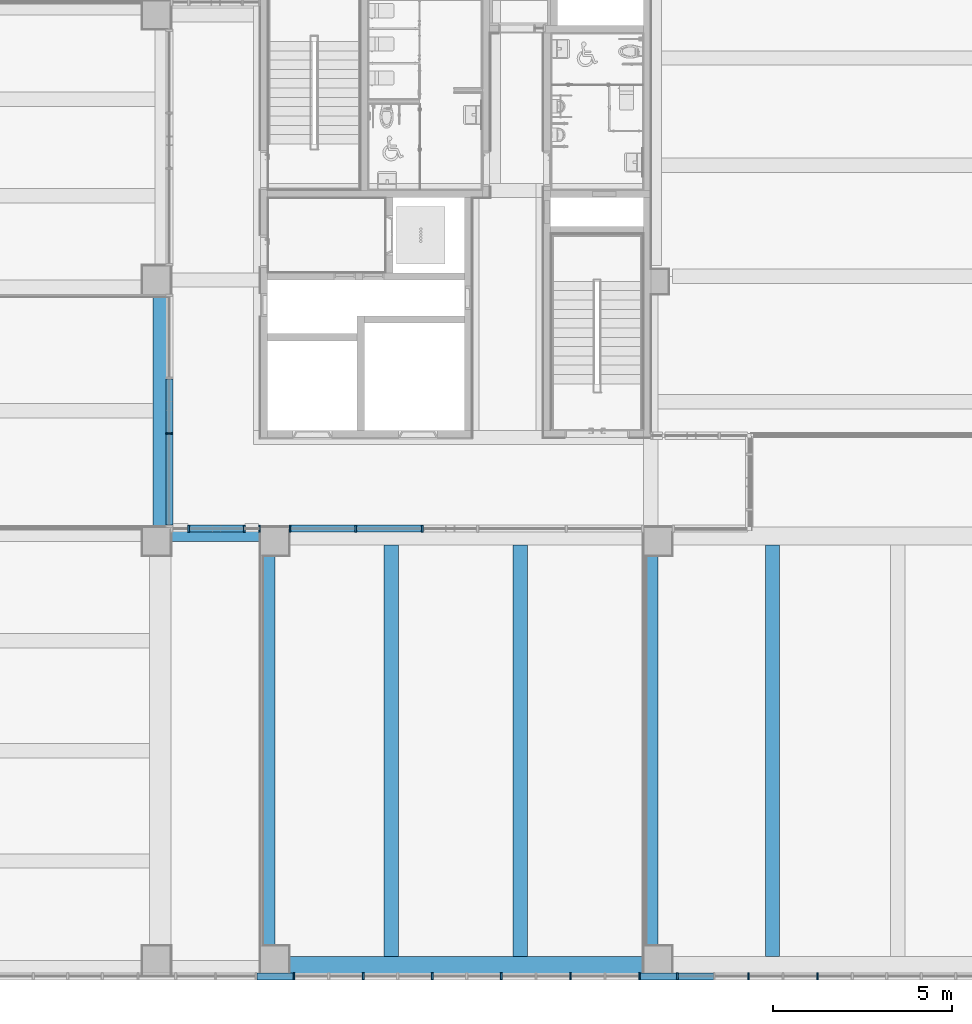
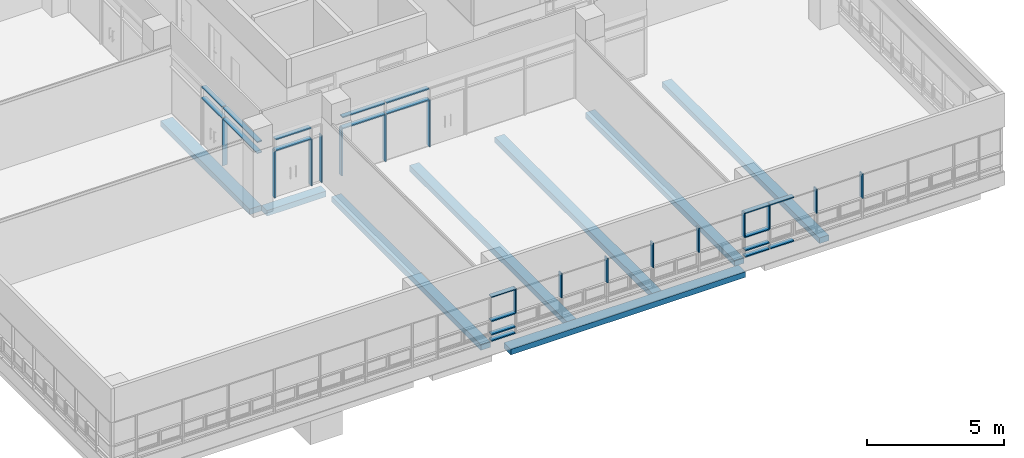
# One storey, part 3 of 82: 36 members, 8 beams, 4 elements without a shape of their own.
"""IFC2X3 building model written with IfcOpenShell, lengths in millimetres."""

from ifc_helpers import new_model, entity, si_unit, converted_unit, derived_unit, direction, frame, frame_2d, origin, origin_2d_with_axis, place, context, subcontext, project, spatial, rectangle, extrude, source, transform, mapped, material, type_object, type_shapes, element, aggregate, save


model = new_model("IFC2X3")

# Units and contexts
model_context = context("Model", 3, precision=0.01, world=origin(), true_north=direction((6.123031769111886e-17, 1.0)))
body_context = subcontext(model_context, "Body", "Model", "MODEL_VIEW")
ifc_project = project(units=[si_unit("LENGTHUNIT", "METRE", prefix="MILLI"), si_unit("AREAUNIT", "SQUARE_METRE"), si_unit("VOLUMEUNIT", "CUBIC_METRE"), converted_unit("PLANEANGLEUNIT", "DEGREE", entity("IfcRatioMeasure", 0.017453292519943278), si_unit("PLANEANGLEUNIT", "RADIAN"), dimensions=[0, 0, 0, 0, 0, 0, 0]), si_unit("MASSUNIT", "GRAM", prefix="KILO"), derived_unit("MASSDENSITYUNIT", [(si_unit("MASSUNIT", "GRAM", prefix="KILO"), 1), (si_unit("LENGTHUNIT", "METRE"), -3)]), derived_unit("MOMENTOFINERTIAUNIT", [(si_unit("LENGTHUNIT", "METRE"), 4)]), si_unit("TIMEUNIT", "SECOND"), si_unit("FREQUENCYUNIT", "HERTZ"), si_unit("THERMODYNAMICTEMPERATUREUNIT", "DEGREE_CELSIUS"), derived_unit("THERMALTRANSMITTANCEUNIT", [(si_unit("MASSUNIT", "GRAM", prefix="KILO"), 1), (si_unit("THERMODYNAMICTEMPERATUREUNIT", "KELVIN"), -1), (si_unit("TIMEUNIT", "SECOND"), -3)]), derived_unit("VOLUMETRICFLOWRATEUNIT", [(si_unit("LENGTHUNIT", "METRE"), 3), (si_unit("TIMEUNIT", "SECOND"), -1)]), derived_unit("MASSFLOWRATEUNIT", [(si_unit("MASSUNIT", "GRAM", prefix="KILO"), 1), (si_unit("TIMEUNIT", "SECOND"), -1)]), derived_unit("ROTATIONALFREQUENCYUNIT", [(si_unit("TIMEUNIT", "SECOND"), -1)]), si_unit("ELECTRICCURRENTUNIT", "AMPERE"), si_unit("ELECTRICVOLTAGEUNIT", "VOLT"), si_unit("POWERUNIT", "WATT"), si_unit("FORCEUNIT", "NEWTON", prefix="KILO"), si_unit("ILLUMINANCEUNIT", "LUX"), si_unit("LUMINOUSFLUXUNIT", "LUMEN"), si_unit("LUMINOUSINTENSITYUNIT", "CANDELA"), derived_unit("USERDEFINED", [(si_unit("MASSUNIT", "GRAM", prefix="KILO"), -1), (si_unit("LENGTHUNIT", "METRE"), -2), (si_unit("TIMEUNIT", "SECOND"), 3), (si_unit("LUMINOUSFLUXUNIT", "LUMEN"), 1)]), derived_unit("SOUNDPOWERUNIT", [(si_unit("MASSUNIT", "GRAM", prefix="KILO"), 1), (si_unit("LENGTHUNIT", "METRE"), 2), (si_unit("TIMEUNIT", "SECOND"), -3)]), derived_unit("SOUNDPRESSUREUNIT", [(si_unit("MASSUNIT", "GRAM", prefix="KILO"), 1), (si_unit("LENGTHUNIT", "METRE"), -1), (si_unit("TIMEUNIT", "SECOND"), -2)]), derived_unit("LINEARVELOCITYUNIT", [(si_unit("LENGTHUNIT", "METRE"), 1), (si_unit("TIMEUNIT", "SECOND"), -1)]), si_unit("PRESSUREUNIT", "PASCAL"), derived_unit("USERDEFINED", [(si_unit("LENGTHUNIT", "METRE"), -2), (si_unit("MASSUNIT", "GRAM", prefix="KILO"), 1), (si_unit("TIMEUNIT", "SECOND"), -2)]), derived_unit("LINEARFORCEUNIT", [(si_unit("MASSUNIT", "GRAM", prefix="KILO"), 1), (si_unit("LENGTHUNIT", "METRE"), 1), (si_unit("TIMEUNIT", "SECOND"), -2), (si_unit("LENGTHUNIT", "METRE"), -1)]), derived_unit("PLANARFORCEUNIT", [(si_unit("MASSUNIT", "GRAM", prefix="KILO"), 1), (si_unit("LENGTHUNIT", "METRE"), 1), (si_unit("TIMEUNIT", "SECOND"), -2), (si_unit("LENGTHUNIT", "METRE"), -2)])], contexts=[model_context])

# Site, building, storey
site_placement = place(None, frame((-14167.972527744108, -657.2125860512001, 0.0)))
site = spatial("IfcSite", under=ifc_project, at=site_placement, Name="Default", CompositionType="ELEMENT")
building_placement = place(site_placement, origin())
building = spatial("IfcBuilding", under=site, at=building_placement, Name="Sample Building", CompositionType="ELEMENT")
storey_placement = place(building_placement, frame((0.0, 0.0, 17500.0)))
storey = spatial("IfcBuildingStorey", under=building, at=storey_placement, Name="지상 5층", CompositionType="ELEMENT", Elevation=17500.00000000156)

# Curtain wall, member
curtain_wall_type = type_object("IfcCurtainWallType", Name="커튼월:CW112-스테인리스 스틸 커튼월", PredefinedType="NOTDEFINED")
curtain_wall_1_placement = place(storey_placement, frame((0.0, 0.0, -17500.0)))
curtain_wall_1 = element("IfcCurtainWall", 1, at=curtain_wall_1_placement, inside=storey, type_object=curtain_wall_type, Name="커튼월:CW112-스테인리스 스틸 커튼월", ObjectType="커튼월:CW112-스테인리스 스틸 커튼월")
ifc_material_1 = material(Name="<Unnamed>")
member_type_1 = type_object("IfcMemberType", Name="직사각형 멀리언:CW200-직사각형 멀리언 50x200mm", PredefinedType="MULLION", material=ifc_material_1)
shared_shape_1 = source(origin(), body_context, "Body", "SweptSolid", [
    extrude(rectangle(XDim=200.0, YDim=50.0, at=origin_2d_with_axis()), frame((-25.0, 0.0, -1500.0), z_axis=(0.0, 0.0, 1.0), x_axis=(0.0, -1.0, 0.0)), (0.0, 0.0, 1.0), 1500.0000000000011),
])
type_shapes(member_type_1, [shared_shape_1])
member_1_placement = place(curtain_wall_1_placement, frame((27522.92042157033, 15692.177624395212, 20200.0), z_axis=(0.0, -1.0, 0.0), x_axis=(0.0, 0.0, 1.0)))
member_1 = element("IfcMember", 2, at=member_1_placement, type_object=member_type_1, material=ifc_material_1, Name="직사각형 멀리언:CW200-직사각형 멀리언 50x200mm", ObjectType="직사각형 멀리언:CW200-직사각형 멀리언 50x200mm", context=body_context, shape_type="MappedRepresentation", body=[
    mapped(shared_shape_1, transform((0.0, 0.0, 0.0), scale=1.0)),
])

curtain_wall_2_placement = place(storey_placement, frame((0.0, 0.0, -17500.0)))
curtain_wall_2 = element("IfcCurtainWall", 3, at=curtain_wall_2_placement, inside=storey, type_object=curtain_wall_type, Name="커튼월:CW112-스테인리스 스틸 커튼월", ObjectType="커튼월:CW112-스테인리스 스틸 커튼월")
member_type_2 = type_object("IfcMemberType", Name="직사각형 멀리언:CW200-직사각형 멀리언 50x200mm", PredefinedType="MULLION", material=ifc_material_1)
shared_shape_2 = source(origin(), body_context, "Body", "SweptSolid", [
    extrude(rectangle(XDim=200.0, YDim=50.0, at=origin_2d_with_axis()), frame((-25.0, 0.0, -2100.0), z_axis=(0.0, 0.0, 1.0), x_axis=(0.0, -1.0, 0.0)), (0.0, 0.0, 1.0), 2099.9999999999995),
])
type_shapes(member_type_2, [shared_shape_2])
member_2_placement = place(curtain_wall_2_placement, frame((30867.955114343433, 13012.212307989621, 19680.0), z_axis=(0.0, 0.0, 1.0), x_axis=(-1.0, 0.0, 0.0)))
member_2 = element("IfcMember", 4, at=member_2_placement, type_object=member_type_2, material=ifc_material_1, Name="직사각형 멀리언:CW200-직사각형 멀리언 50x200mm", ObjectType="직사각형 멀리언:CW200-직사각형 멀리언 50x200mm", context=body_context, shape_type="MappedRepresentation", body=[
    mapped(shared_shape_2, transform((0.0, 0.0, 0.0), scale=1.0)),
])

# Member
member_type_3 = type_object("IfcMemberType", Name="직사각형 멀리언:CW200-직사각형 멀리언 50x200mm", PredefinedType="MULLION", material=ifc_material_1)
shared_shape_3 = source(origin(), body_context, "Body", "SweptSolid", [
    extrude(rectangle(XDim=200.0, YDim=50.0, at=origin_2d_with_axis()), frame((0.0, 0.0, -1500.0), z_axis=(0.0, 0.0, 1.0), x_axis=(0.0, -1.0, 0.0)), (0.0, 0.0, 1.0), 1500.0000000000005),
])
type_shapes(member_type_3, [shared_shape_3])
member_3_placement = place(curtain_wall_1_placement, frame((27522.92042157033, 15692.177624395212, 19680.0), z_axis=(0.0, -1.0, 0.0), x_axis=(0.0, 0.0, 1.0)))
member_3 = element("IfcMember", 5, at=member_3_placement, type_object=member_type_3, material=ifc_material_1, Name="직사각형 멀리언:CW200-직사각형 멀리언 50x200mm", ObjectType="직사각형 멀리언:CW200-직사각형 멀리언 50x200mm", context=body_context, shape_type="MappedRepresentation", body=[
    mapped(shared_shape_3, transform((0.0, 0.0, 0.0), scale=1.0)),
])

member_type_4 = type_object("IfcMemberType", Name="직사각형 멀리언:CW200-직사각형 멀리언 50x200mm", PredefinedType="MULLION", material=ifc_material_1)
shared_shape_4 = source(origin(), body_context, "Body", "SweptSolid", [
    extrude(rectangle(XDim=200.0, YDim=50.0, at=origin_2d_with_axis()), frame((0.0, 0.0, -2100.0), z_axis=(0.0, 0.0, 1.0), x_axis=(0.0, -1.0, 0.0)), (0.0, 0.0, 1.0), 2100.0),
])
type_shapes(member_type_4, [shared_shape_4])
member_4_placement = place(curtain_wall_1_placement, frame((27522.92042157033, 15667.17762439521, 17580.0), z_axis=(0.0, 0.0, -1.0), x_axis=(0.0, -1.0, 0.0)))
member_4 = element("IfcMember", 6, at=member_4_placement, type_object=member_type_4, material=ifc_material_1, Name="직사각형 멀리언:CW200-직사각형 멀리언 50x200mm", ObjectType="직사각형 멀리언:CW200-직사각형 멀리언 50x200mm", context=body_context, shape_type="MappedRepresentation", body=[
    mapped(shared_shape_4, transform((0.0, 0.0, 0.0), scale=1.0)),
])

member_5_placement = place(curtain_wall_2_placement, frame((32727.97249113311, 13012.212307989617, 17580.0), z_axis=(0.0, 0.0, -1.0), x_axis=(1.0, 0.0, 0.0)))
member_5 = element("IfcMember", 7, at=member_5_placement, type_object=member_type_4, material=ifc_material_1, Name="직사각형 멀리언:CW200-직사각형 멀리언 50x200mm", ObjectType="직사각형 멀리언:CW200-직사각형 멀리언 50x200mm", context=body_context, shape_type="MappedRepresentation", body=[
    mapped(shared_shape_4, transform((0.0, 0.0, 0.0), scale=1.0)),
])

member_6_placement = place(curtain_wall_2_placement, frame((34587.972491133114, 13012.21230798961, 17580.0), z_axis=(0.0, 0.0, -1.0), x_axis=(1.0, 0.0, 0.0)))
member_6 = element("IfcMember", 8, at=member_6_placement, type_object=member_type_4, material=ifc_material_1, Name="직사각형 멀리언:CW200-직사각형 멀리언 50x200mm", ObjectType="직사각형 멀리언:CW200-직사각형 멀리언 50x200mm", context=body_context, shape_type="MappedRepresentation", body=[
    mapped(shared_shape_4, transform((0.0, 0.0, 0.0), scale=1.0)),
])

member_type_5 = type_object("IfcMemberType", Name="직사각형 멀리언:CW200-직사각형 멀리언 50x200mm", PredefinedType="MULLION", material=ifc_material_1)
shared_shape_5 = source(origin(), body_context, "Body", "SweptSolid", [
    extrude(rectangle(XDim=200.0, YDim=50.0, at=origin_2d_with_axis()), frame((-25.0, 0.0, -2534.965316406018), z_axis=(0.0, 0.0, 1.0), x_axis=(0.0, -1.0, 0.0)), (0.0, 0.0, 1.0), 2534.965316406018),
])
type_shapes(member_type_5, [shared_shape_5])
member_7_placement = place(curtain_wall_1_placement, frame((27522.920421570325, 13107.21230798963, 20200.0), z_axis=(0.0, -1.0, 0.0), x_axis=(0.0, 0.0, 1.0)))
member_7 = element("IfcMember", 9, at=member_7_placement, type_object=member_type_5, material=ifc_material_1, Name="직사각형 멀리언:CW200-직사각형 멀리언 50x200mm", ObjectType="직사각형 멀리언:CW200-직사각형 멀리언 50x200mm", context=body_context, shape_type="MappedRepresentation", body=[
    mapped(shared_shape_5, transform((0.0, 0.0, 0.0), scale=1.0)),
])

member_type_6 = type_object("IfcMemberType", Name="직사각형 멀리언:CW200-직사각형 멀리언 50x200mm", PredefinedType="MULLION", material=ifc_material_1)
shared_shape_6 = source(origin(), body_context, "Body", "SweptSolid", [
    extrude(rectangle(XDim=200.0, YDim=50.0, at=origin_2d_with_axis()), frame((0.0, 0.0, -2534.9653164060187), z_axis=(0.0, 0.0, 1.0), x_axis=(0.0, -1.0, 0.0)), (0.0, 0.0, 1.0), 2534.9653164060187),
])
type_shapes(member_type_6, [shared_shape_6])
member_8_placement = place(curtain_wall_1_placement, frame((27522.920421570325, 13107.21230798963, 19680.0), z_axis=(0.0, -1.0, 0.0), x_axis=(0.0, 0.0, 1.0)))
member_8 = element("IfcMember", 10, at=member_8_placement, type_object=member_type_6, material=ifc_material_1, Name="직사각형 멀리언:CW200-직사각형 멀리언 50x200mm", ObjectType="직사각형 멀리언:CW200-직사각형 멀리언 50x200mm", context=body_context, shape_type="MappedRepresentation", body=[
    mapped(shared_shape_6, transform((0.0, 0.0, 0.0), scale=1.0)),
])

aggregate(curtain_wall_1, [member_7, member_1, member_4, member_3, member_8])

# Curtain wall, members
curtain_wall_3_placement = place(storey_placement, frame((0.0, 0.0, -17500.0)))
curtain_wall_3 = element("IfcCurtainWall", 11, at=curtain_wall_3_placement, inside=storey, type_object=curtain_wall_type, Name="커튼월:CW112-스테인리스 스틸 커튼월", ObjectType="커튼월:CW112-스테인리스 스틸 커튼월")
member_type_7 = type_object("IfcMemberType", Name="직사각형 멀리언:CW200-직사각형 멀리언 50x200mm", PredefinedType="MULLION", material=ifc_material_1)
shared_shape_7 = source(origin(), body_context, "Body", "SweptSolid", [
    extrude(rectangle(XDim=200.0, YDim=50.0, at=origin_2d_with_axis()), frame((0.0, 0.0, -1500.0), z_axis=(0.0, 0.0, 1.0), x_axis=(0.0, -1.0, 0.0)), (0.0, 0.0, 1.0), 1499.999999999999),
])
type_shapes(member_type_7, [shared_shape_7])
member_9_placement = place(curtain_wall_3_placement, frame((28091.1258144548, 13012.21230798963, 19680.0), z_axis=(-1.0, 0.0, 0.0), x_axis=(0.0, 0.0, 1.0)))
member_9 = element("IfcMember", 12, at=member_9_placement, type_object=member_type_7, material=ifc_material_1, Name="직사각형 멀리언:CW200-직사각형 멀리언 50x200mm", ObjectType="직사각형 멀리언:CW200-직사각형 멀리언 50x200mm", context=body_context, shape_type="MappedRepresentation", body=[
    mapped(shared_shape_7, transform((0.0, 0.0, 0.0), scale=1.0)),
])
member_type_8 = type_object("IfcMemberType", Name="직사각형 멀리언:CW200-직사각형 멀리언 50x200mm", PredefinedType="MULLION", material=ifc_material_1)
shared_shape_8 = source(origin(), body_context, "Body", "SweptSolid", [
    extrude(rectangle(XDim=200.0, YDim=50.0, at=origin_2d_with_axis()), frame((-25.0, 0.0, -1500.0), z_axis=(0.0, 0.0, 1.0), x_axis=(0.0, -1.0, 0.0)), (0.0, 0.0, 1.0), 1499.999999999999),
])
type_shapes(member_type_8, [shared_shape_8])
member_10_placement = place(curtain_wall_3_placement, frame((28091.1258144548, 13012.21230798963, 20200.0), z_axis=(-1.0, 0.0, 0.0), x_axis=(0.0, 0.0, 1.0)))
member_10 = element("IfcMember", 13, at=member_10_placement, type_object=member_type_8, material=ifc_material_1, Name="직사각형 멀리언:CW200-직사각형 멀리언 50x200mm", ObjectType="직사각형 멀리언:CW200-직사각형 멀리언 50x200mm", context=body_context, shape_type="MappedRepresentation", body=[
    mapped(shared_shape_8, transform((0.0, 0.0, 0.0), scale=1.0)),
])

# Member
member_type_9 = type_object("IfcMemberType", Name="직사각형 멀리언:CW200-직사각형 멀리언 50x200mm", PredefinedType="MULLION", material=ifc_material_1)
shared_shape_9 = source(origin(), body_context, "Body", "SweptSolid", [
    extrude(rectangle(XDim=200.0, YDim=50.0, at=origin_2d_with_axis()), frame((0.0, 0.0, -1785.0), z_axis=(0.0, 0.0, 1.0), x_axis=(0.0, -1.0, 0.0)), (0.0, 0.0, 1.0), 1785.0000000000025),
])
type_shapes(member_type_9, [shared_shape_9])
member_11_placement = place(curtain_wall_2_placement, frame((32702.972491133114, 13012.212307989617, 19680.0), z_axis=(1.0, 0.0, 0.0), x_axis=(0.0, 0.0, 1.0)))
member_11 = element("IfcMember", 14, at=member_11_placement, type_object=member_type_9, material=ifc_material_1, Name="직사각형 멀리언:CW200-직사각형 멀리언 50x200mm", ObjectType="직사각형 멀리언:CW200-직사각형 멀리언 50x200mm", context=body_context, shape_type="MappedRepresentation", body=[
    mapped(shared_shape_9, transform((0.0, 0.0, 0.0), scale=1.0)),
])

member_type_10 = type_object("IfcMemberType", Name="직사각형 멀리언:CW200-직사각형 멀리언 50x200mm", PredefinedType="MULLION", material=ifc_material_1)
shared_shape_10 = source(origin(), body_context, "Body", "SweptSolid", [
    extrude(rectangle(XDim=200.0, YDim=50.0, at=origin_2d_with_axis()), frame((-25.0, 0.0, -1785.0), z_axis=(0.0, 0.0, 1.0), x_axis=(0.0, -1.0, 0.0)), (0.0, 0.0, 1.0), 1785.0000000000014),
])
type_shapes(member_type_10, [shared_shape_10])
member_12_placement = place(curtain_wall_2_placement, frame((32702.972491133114, 13012.212307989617, 20200.0), z_axis=(1.0, 0.0, 0.0), x_axis=(0.0, 0.0, 1.0)))
member_12 = element("IfcMember", 15, at=member_12_placement, type_object=member_type_10, material=ifc_material_1, Name="직사각형 멀리언:CW200-직사각형 멀리언 50x200mm", ObjectType="직사각형 멀리언:CW200-직사각형 멀리언 50x200mm", context=body_context, shape_type="MappedRepresentation", body=[
    mapped(shared_shape_10, transform((0.0, 0.0, 0.0), scale=1.0)),
])

member_type_11 = type_object("IfcMemberType", Name="직사각형 멀리언:CW200-직사각형 멀리언 50x200mm", PredefinedType="MULLION", material=ifc_material_1)
shared_shape_11 = source(origin(), body_context, "Body", "SweptSolid", [
    extrude(rectangle(XDim=200.0, YDim=50.0, at=origin_2d_with_axis()), frame((0.0, 0.0, -1810.0), z_axis=(0.0, 0.0, 1.0), x_axis=(0.0, -1.0, 0.0)), (0.0, 0.0, 1.0), 1809.999999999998),
])
type_shapes(member_type_11, [shared_shape_11])
member_13_placement = place(curtain_wall_2_placement, frame((34562.972491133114, 13012.21230798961, 19680.0), z_axis=(1.0, 0.0, 0.0), x_axis=(0.0, 0.0, 1.0)))
member_13 = element("IfcMember", 16, at=member_13_placement, type_object=member_type_11, material=ifc_material_1, Name="직사각형 멀리언:CW200-직사각형 멀리언 50x200mm", ObjectType="직사각형 멀리언:CW200-직사각형 멀리언 50x200mm", context=body_context, shape_type="MappedRepresentation", body=[
    mapped(shared_shape_11, transform((0.0, 0.0, 0.0), scale=1.0)),
])

member_type_12 = type_object("IfcMemberType", Name="직사각형 멀리언:CW200-직사각형 멀리언 50x200mm", PredefinedType="MULLION", material=ifc_material_1)
shared_shape_12 = source(origin(), body_context, "Body", "SweptSolid", [
    extrude(rectangle(XDim=200.0, YDim=50.0, at=origin_2d_with_axis()), frame((-25.0, 0.0, -1810.0), z_axis=(0.0, 0.0, 1.0), x_axis=(0.0, -1.0, 0.0)), (0.0, 0.0, 1.0), 1809.999999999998),
])
type_shapes(member_type_12, [shared_shape_12])
member_14_placement = place(curtain_wall_2_placement, frame((34562.972491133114, 13012.21230798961, 20200.0), z_axis=(1.0, 0.0, 0.0), x_axis=(0.0, 0.0, 1.0)))
member_14 = element("IfcMember", 17, at=member_14_placement, type_object=member_type_12, material=ifc_material_1, Name="직사각형 멀리언:CW200-직사각형 멀리언 50x200mm", ObjectType="직사각형 멀리언:CW200-직사각형 멀리언 50x200mm", context=body_context, shape_type="MappedRepresentation", body=[
    mapped(shared_shape_12, transform((0.0, 0.0, 0.0), scale=1.0)),
])

aggregate(curtain_wall_2, [member_2, member_11, member_12, member_13, member_5, member_14, member_6])

member_type_13 = type_object("IfcMemberType", Name="직사각형 멀리언:CW200-직사각형 멀리언 50x200mm", PredefinedType="MULLION", material=ifc_material_1)
shared_shape_13 = source(origin(), body_context, "Body", "SweptSolid", [
    extrude(rectangle(XDim=200.0, YDim=50.0, at=origin_2d_with_axis()), frame((-25.0, 0.0, -2100.0), z_axis=(0.0, 0.0, 1.0), x_axis=(0.0, -1.0, 0.0)), (0.0, 0.0, 1.0), 2099.999999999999),
])
type_shapes(member_type_13, [shared_shape_13])
member_15_placement = place(curtain_wall_3_placement, frame((30067.972463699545, 13012.212307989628, 19680.0)))
member_15 = element("IfcMember", 18, at=member_15_placement, type_object=member_type_13, material=ifc_material_1, Name="직사각형 멀리언:CW200-직사각형 멀리언 50x200mm", ObjectType="직사각형 멀리언:CW200-직사각형 멀리언 50x200mm", context=body_context, shape_type="MappedRepresentation", body=[
    mapped(shared_shape_13, transform((0.0, 0.0, 0.0), scale=1.0)),
])

member_type_14 = type_object("IfcMemberType", Name="직사각형 멀리언:CW200-직사각형 멀리언 50x200mm", PredefinedType="MULLION", material=ifc_material_1)
shared_shape_14 = source(origin(), body_context, "Body", "SweptSolid", [
    extrude(rectangle(XDim=200.0, YDim=50.0, at=origin_2d_with_axis()), frame((0.0, 0.0, -2100.0), z_axis=(0.0, 0.0, 1.0), x_axis=(0.0, -1.0, 0.0)), (0.0, 0.0, 1.0), 2100.0),
])
type_shapes(member_type_14, [shared_shape_14])
member_16_placement = place(curtain_wall_3_placement, frame((29616.1258144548, 13012.212307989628, 17580.0), z_axis=(0.0, 0.0, -1.0), x_axis=(-1.0, 0.0, 0.0)))
member_16 = element("IfcMember", 19, at=member_16_placement, type_object=member_type_14, material=ifc_material_1, Name="직사각형 멀리언:CW200-직사각형 멀리언 50x200mm", ObjectType="직사각형 멀리언:CW200-직사각형 멀리언 50x200mm", context=body_context, shape_type="MappedRepresentation", body=[
    mapped(shared_shape_14, transform((0.0, 0.0, 0.0), scale=1.0)),
])

member_17_placement = place(curtain_wall_3_placement, frame((28066.1258144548, 13012.21230798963, 17580.0), z_axis=(0.0, 0.0, -1.0), x_axis=(-1.0, 0.0, 0.0)))
member_17 = element("IfcMember", 20, at=member_17_placement, type_object=member_type_14, material=ifc_material_1, Name="직사각형 멀리언:CW200-직사각형 멀리언 50x200mm", ObjectType="직사각형 멀리언:CW200-직사각형 멀리언 50x200mm", context=body_context, shape_type="MappedRepresentation", body=[
    mapped(shared_shape_14, transform((0.0, 0.0, 0.0), scale=1.0)),
])

aggregate(curtain_wall_3, [member_15, member_9, member_16, member_10, member_17])

# Curtain wall, members
curtain_wall_4_placement = place(storey_placement, frame((0.0, 0.0, -17500.0)))
curtain_wall_4 = element("IfcCurtainWall", 21, at=curtain_wall_4_placement, inside=storey, type_object=curtain_wall_type, Name="커튼월:CW112-스테인리스 스틸 커튼월", ObjectType="커튼월:CW112-스테인리스 스틸 커튼월")
member_type_15 = type_object("IfcMemberType", Name="직사각형 멀리언:CW200-직사각형 멀리언 50x200mm", PredefinedType="MULLION", material=ifc_material_1)
shared_shape_15 = source(origin(), body_context, "Body", "SweptSolid", [
    extrude(rectangle(XDim=200.0, YDim=50.0, at=origin_2d_with_axis()), frame((0.0, 0.0, -1100.0), z_axis=(0.0, 0.0, 1.0), x_axis=(0.0, -1.0, 0.0)), (0.0, 0.0, 1.0), 1100.0000000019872),
])
type_shapes(member_type_15, [shared_shape_15])
member_18_placement = place(curtain_wall_4_placement, frame((31005.156070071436, 507.21229514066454, 19000.0), z_axis=(0.0, 0.0, -1.0), x_axis=(1.0, 0.0, 0.0)))
member_18 = element("IfcMember", 22, at=member_18_placement, type_object=member_type_15, material=ifc_material_1, Name="직사각형 멀리언:CW200-직사각형 멀리언 50x200mm", ObjectType="직사각형 멀리언:CW200-직사각형 멀리언 50x200mm", context=body_context, shape_type="MappedRepresentation", body=[
    mapped(shared_shape_15, transform((0.0, 0.0, 0.0), scale=1.0)),
])
member_19_placement = place(curtain_wall_4_placement, frame((32935.156070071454, 507.21229514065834, 19000.0), z_axis=(0.0, 0.0, -1.0), x_axis=(1.0, 0.0, 0.0)))
member_19 = element("IfcMember", 23, at=member_19_placement, type_object=member_type_15, material=ifc_material_1, Name="직사각형 멀리언:CW200-직사각형 멀리언 50x200mm", ObjectType="직사각형 멀리언:CW200-직사각형 멀리언 50x200mm", context=body_context, shape_type="MappedRepresentation", body=[
    mapped(shared_shape_15, transform((0.0, 0.0, 0.0), scale=1.0)),
])
member_20_placement = place(curtain_wall_4_placement, frame((34865.15607007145, 507.2122951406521, 19000.0), z_axis=(0.0, 0.0, -1.0), x_axis=(1.0, 0.0, 0.0)))
member_20 = element("IfcMember", 24, at=member_20_placement, type_object=member_type_15, material=ifc_material_1, Name="직사각형 멀리언:CW200-직사각형 멀리언 50x200mm", ObjectType="직사각형 멀리언:CW200-직사각형 멀리언 50x200mm", context=body_context, shape_type="MappedRepresentation", body=[
    mapped(shared_shape_15, transform((0.0, 0.0, 0.0), scale=1.0)),
])
member_21_placement = place(curtain_wall_4_placement, frame((36795.156070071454, 507.2122951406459, 19000.0), z_axis=(0.0, 0.0, -1.0), x_axis=(1.0, 0.0, 0.0)))
member_21 = element("IfcMember", 25, at=member_21_placement, type_object=member_type_15, material=ifc_material_1, Name="직사각형 멀리언:CW200-직사각형 멀리언 50x200mm", ObjectType="직사각형 멀리언:CW200-직사각형 멀리언 50x200mm", context=body_context, shape_type="MappedRepresentation", body=[
    mapped(shared_shape_15, transform((0.0, 0.0, 0.0), scale=1.0)),
])
member_22_placement = place(curtain_wall_4_placement, frame((38725.156070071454, 507.2122951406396, 19000.0), z_axis=(0.0, 0.0, -1.0), x_axis=(1.0, 0.0, 0.0)))
member_22 = element("IfcMember", 26, at=member_22_placement, type_object=member_type_15, material=ifc_material_1, Name="직사각형 멀리언:CW200-직사각형 멀리언 50x200mm", ObjectType="직사각형 멀리언:CW200-직사각형 멀리언 50x200mm", context=body_context, shape_type="MappedRepresentation", body=[
    mapped(shared_shape_15, transform((0.0, 0.0, 0.0), scale=1.0)),
])
member_23_placement = place(curtain_wall_4_placement, frame((40650.156070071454, 507.21229514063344, 19000.0), z_axis=(0.0, 0.0, -1.0), x_axis=(1.0, 0.0, 0.0)))
member_23 = element("IfcMember", 27, at=member_23_placement, type_object=member_type_15, material=ifc_material_1, Name="직사각형 멀리언:CW200-직사각형 멀리언 50x200mm", ObjectType="직사각형 멀리언:CW200-직사각형 멀리언 50x200mm", context=body_context, shape_type="MappedRepresentation", body=[
    mapped(shared_shape_15, transform((0.0, 0.0, 0.0), scale=1.0)),
])
member_24_placement = place(curtain_wall_4_placement, frame((41710.15607007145, 507.21229514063, 19000.0), z_axis=(0.0, 0.0, -1.0), x_axis=(1.0, 0.0, 0.0)))
member_24 = element("IfcMember", 28, at=member_24_placement, type_object=member_type_15, material=ifc_material_1, Name="직사각형 멀리언:CW200-직사각형 멀리언 50x200mm", ObjectType="직사각형 멀리언:CW200-직사각형 멀리언 50x200mm", context=body_context, shape_type="MappedRepresentation", body=[
    mapped(shared_shape_15, transform((0.0, 0.0, 0.0), scale=1.0)),
])
member_25_placement = place(curtain_wall_4_placement, frame((43695.15607007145, 507.21229514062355, 19000.0), z_axis=(0.0, 0.0, -1.0), x_axis=(1.0, 0.0, 0.0)))
member_25 = element("IfcMember", 29, at=member_25_placement, type_object=member_type_15, material=ifc_material_1, Name="직사각형 멀리언:CW200-직사각형 멀리언 50x200mm", ObjectType="직사각형 멀리언:CW200-직사각형 멀리언 50x200mm", context=body_context, shape_type="MappedRepresentation", body=[
    mapped(shared_shape_15, transform((0.0, 0.0, 0.0), scale=1.0)),
])
member_26_placement = place(curtain_wall_4_placement, frame((45625.156070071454, 507.2122951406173, 19000.0), z_axis=(0.0, 0.0, -1.0), x_axis=(1.0, 0.0, 0.0)))
member_26 = element("IfcMember", 30, at=member_26_placement, type_object=member_type_15, material=ifc_material_1, Name="직사각형 멀리언:CW200-직사각형 멀리언 50x200mm", ObjectType="직사각형 멀리언:CW200-직사각형 멀리언 50x200mm", context=body_context, shape_type="MappedRepresentation", body=[
    mapped(shared_shape_15, transform((0.0, 0.0, 0.0), scale=1.0)),
])
member_type_16 = type_object("IfcMemberType", Name="직사각형 멀리언:CW200-직사각형 멀리언 50x200mm", PredefinedType="MULLION", material=ifc_material_1)
shared_shape_16 = source(origin(), body_context, "Body", "SweptSolid", [
    extrude(rectangle(XDim=200.0, YDim=50.0, at=origin_2d_with_axis()), frame((-25.0, 0.0, -1010.0), z_axis=(0.0, 0.0, 1.0), x_axis=(0.0, -1.0, 0.0)), (0.0, 0.0, 1.0), 1009.9999999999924),
])
type_shapes(member_type_16, [shared_shape_16])
member_27_placement = place(curtain_wall_4_placement, frame((29970.156070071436, 507.21229514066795, 18100.0), z_axis=(-1.0, 0.0, 0.0), x_axis=(0.0, 0.0, -1.0)))
member_27 = element("IfcMember", 31, at=member_27_placement, type_object=member_type_16, material=ifc_material_1, Name="직사각형 멀리언:CW200-직사각형 멀리언 50x200mm", ObjectType="직사각형 멀리언:CW200-직사각형 멀리언 50x200mm", context=body_context, shape_type="MappedRepresentation", body=[
    mapped(shared_shape_16, transform((0.0, 0.0, 0.0), scale=1.0)),
])
member_28_placement = place(curtain_wall_4_placement, frame((40675.156070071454, 507.21229514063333, 18100.0), z_axis=(-1.0, 0.0, 0.0), x_axis=(0.0, 0.0, -1.0)))
member_28 = element("IfcMember", 32, at=member_28_placement, type_object=member_type_16, material=ifc_material_1, Name="직사각형 멀리언:CW200-직사각형 멀리언 50x200mm", ObjectType="직사각형 멀리언:CW200-직사각형 멀리언 50x200mm", context=body_context, shape_type="MappedRepresentation", body=[
    mapped(shared_shape_16, transform((0.0, 0.0, 0.0), scale=1.0)),
])
member_type_17 = type_object("IfcMemberType", Name="직사각형 멀리언:CW200-직사각형 멀리언 50x200mm", PredefinedType="MULLION", material=ifc_material_1)
shared_shape_17 = source(origin(), body_context, "Body", "SweptSolid", [
    extrude(rectangle(XDim=200.0, YDim=50.0, at=origin_2d_with_axis()), frame((0.0, 0.0, -1010.0), z_axis=(0.0, 0.0, 1.0), x_axis=(0.0, -1.0, 0.0)), (0.0, 0.0, 1.0), 1009.9999999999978),
])
type_shapes(member_type_17, [shared_shape_17])
member_29_placement = place(curtain_wall_4_placement, frame((30980.15607007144, 507.2122951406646, 18400.0), z_axis=(1.0, 0.0, 0.0), x_axis=(0.0, 0.0, 1.0)))
member_29 = element("IfcMember", 33, at=member_29_placement, type_object=member_type_17, material=ifc_material_1, Name="직사각형 멀리언:CW200-직사각형 멀리언 50x200mm", ObjectType="직사각형 멀리언:CW200-직사각형 멀리언 50x200mm", context=body_context, shape_type="MappedRepresentation", body=[
    mapped(shared_shape_17, transform((0.0, 0.0, 0.0), scale=1.0)),
])
member_30_placement = place(curtain_wall_4_placement, frame((30980.15607007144, 507.2122951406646, 19000.0), z_axis=(1.0, 0.0, 0.0), x_axis=(0.0, 0.0, 1.0)))
member_30 = element("IfcMember", 34, at=member_30_placement, type_object=member_type_17, material=ifc_material_1, Name="직사각형 멀리언:CW200-직사각형 멀리언 50x200mm", ObjectType="직사각형 멀리언:CW200-직사각형 멀리언 50x200mm", context=body_context, shape_type="MappedRepresentation", body=[
    mapped(shared_shape_17, transform((0.0, 0.0, 0.0), scale=1.0)),
])
member_31_placement = place(curtain_wall_4_placement, frame((41685.15607007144, 507.21229514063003, 18400.0), z_axis=(1.0, 0.0, 0.0), x_axis=(0.0, 0.0, 1.0)))
member_31 = element("IfcMember", 35, at=member_31_placement, type_object=member_type_17, material=ifc_material_1, Name="직사각형 멀리언:CW200-직사각형 멀리언 50x200mm", ObjectType="직사각형 멀리언:CW200-직사각형 멀리언 50x200mm", context=body_context, shape_type="MappedRepresentation", body=[
    mapped(shared_shape_17, transform((0.0, 0.0, 0.0), scale=1.0)),
])
member_32_placement = place(curtain_wall_4_placement, frame((41685.15607007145, 507.21229514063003, 19000.0), z_axis=(1.0, 0.0, 0.0), x_axis=(0.0, 0.0, 1.0)))
member_32 = element("IfcMember", 36, at=member_32_placement, type_object=member_type_17, material=ifc_material_1, Name="직사각형 멀리언:CW200-직사각형 멀리언 50x200mm", ObjectType="직사각형 멀리언:CW200-직사각형 멀리언 50x200mm", context=body_context, shape_type="MappedRepresentation", body=[
    mapped(shared_shape_17, transform((0.0, 0.0, 0.0), scale=1.0)),
])
member_type_18 = type_object("IfcMemberType", Name="직사각형 멀리언:CW200-직사각형 멀리언 50x200mm", PredefinedType="MULLION", material=ifc_material_1)
shared_shape_18 = source(origin(), body_context, "Body", "SweptSolid", [
    extrude(rectangle(XDim=200.0, YDim=50.0, at=origin_2d_with_axis()), frame((-25.0, 0.0, -1010.0), z_axis=(0.0, 0.0, 1.0), x_axis=(0.0, -1.0, 0.0)), (0.0, 0.0, 1.0), 1009.9999999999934),
])
type_shapes(member_type_18, [shared_shape_18])
member_33_placement = place(curtain_wall_4_placement, frame((30980.15607007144, 507.2122951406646, 20100.0), z_axis=(1.0, 0.0, 0.0), x_axis=(0.0, 0.0, 1.0)))
member_33 = element("IfcMember", 37, at=member_33_placement, type_object=member_type_18, material=ifc_material_1, Name="직사각형 멀리언:CW200-직사각형 멀리언 50x200mm", ObjectType="직사각형 멀리언:CW200-직사각형 멀리언 50x200mm", context=body_context, shape_type="MappedRepresentation", body=[
    mapped(shared_shape_18, transform((0.0, 0.0, 0.0), scale=1.0)),
])
member_34_placement = place(curtain_wall_4_placement, frame((41685.156070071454, 507.21229514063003, 20100.0), z_axis=(1.0, 0.0, 0.0), x_axis=(0.0, 0.0, 1.0)))
member_34 = element("IfcMember", 38, at=member_34_placement, type_object=member_type_18, material=ifc_material_1, Name="직사각형 멀리언:CW200-직사각형 멀리언 50x200mm", ObjectType="직사각형 멀리언:CW200-직사각형 멀리언 50x200mm", context=body_context, shape_type="MappedRepresentation", body=[
    mapped(shared_shape_18, transform((0.0, 0.0, 0.0), scale=1.0)),
])
member_type_19 = type_object("IfcMemberType", Name="직사각형 멀리언:CW200-직사각형 멀리언 50x200mm", PredefinedType="MULLION", material=ifc_material_1)
shared_shape_19 = source(origin(), body_context, "Body", "SweptSolid", [
    extrude(rectangle(XDim=200.0, YDim=50.0, at=origin_2d_with_axis()), frame((-25.0, 0.0, -995.0), z_axis=(0.0, 0.0, 1.0), x_axis=(0.0, -1.0, 0.0)), (0.0, 0.0, 1.0), 994.9999999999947),
])
type_shapes(member_type_19, [shared_shape_19])
member_35_placement = place(curtain_wall_4_placement, frame((41735.15607007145, 507.2122951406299, 18100.0), z_axis=(-1.0, 0.0, 0.0), x_axis=(0.0, 0.0, -1.0)))
member_35 = element("IfcMember", 39, at=member_35_placement, type_object=member_type_19, material=ifc_material_1, Name="직사각형 멀리언:CW200-직사각형 멀리언 50x200mm", ObjectType="직사각형 멀리언:CW200-직사각형 멀리언 50x200mm", context=body_context, shape_type="MappedRepresentation", body=[
    mapped(shared_shape_19, transform((0.0, 0.0, 0.0), scale=1.0)),
])
member_type_20 = type_object("IfcMemberType", Name="직사각형 멀리언:CW200-직사각형 멀리언 50x200mm", PredefinedType="MULLION", material=ifc_material_1)
shared_shape_20 = source(origin(), body_context, "Body", "SweptSolid", [
    extrude(rectangle(XDim=200.0, YDim=50.0, at=origin_2d_with_axis()), frame((-25.0, 0.0, -995.0), z_axis=(0.0, 0.0, 1.0), x_axis=(0.0, -1.0, 0.0)), (0.0, 0.0, 1.0), 995.0000000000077),
])
type_shapes(member_type_20, [shared_shape_20])
member_36_placement = place(curtain_wall_4_placement, frame((42730.156070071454, 507.2122951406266, 20100.0), z_axis=(1.0, 0.0, 0.0), x_axis=(0.0, 0.0, 1.0)))
member_36 = element("IfcMember", 40, at=member_36_placement, type_object=member_type_20, material=ifc_material_1, Name="직사각형 멀리언:CW200-직사각형 멀리언 50x200mm", ObjectType="직사각형 멀리언:CW200-직사각형 멀리언 50x200mm", context=body_context, shape_type="MappedRepresentation", body=[
    mapped(shared_shape_20, transform((0.0, 0.0, 0.0), scale=1.0)),
])
aggregate(curtain_wall_4, [member_27, member_29, member_30, member_33, member_18, member_19, member_20, member_21, member_22, member_28, member_31, member_32, member_23, member_34, member_35, member_24, member_25, member_26, member_36])

# Beams
ifc_material_2 = material(Name="KBIMS-콘크리트")
beam_type_1 = type_object("IfcBeamType", Name="BM111-철근콘크리트구조 보:BM110-철근 콘크리트구조 보_400 x 400_2-10G8", PredefinedType="NOTDEFINED")
beam_1_placement = place(storey_placement, frame((27317.963914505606, 12857.212604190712, 0.0)))
element("IfcBeam", 41, at=beam_1_placement, inside=storey, type_object=beam_type_1, material=ifc_material_2, Name="BM111-철근콘크리트구조 보:BM110-철근 콘크리트구조 보_400 x 400_2-10G8", ObjectType="BM111-철근콘크리트구조 보:BM110-철근 콘크리트구조 보_400 x 400_2-10G8", context=body_context, shape_type="SweptSolid", body=[
    extrude(rectangle(XDim=250.00000000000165, YDim=400.0000000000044, at=frame_2d((-1.0800249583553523e-12, 0.0), x_axis=(1.0, 0.0))), frame((249.991227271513, 0.0, -275.0), z_axis=(1.0, 0.0, 0.0), x_axis=(0.0, 0.0, -1.0)), (0.0, 0.0, 1.0), 2499.9999725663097),
])
beam_type_2 = type_object("IfcBeamType", Name="BM111-철근콘크리트구조 보:BM110-철근 콘크리트구조 보_500 x 400_2-10G9", PredefinedType="NOTDEFINED")
beam_2_placement = place(storey_placement, frame((30866.521346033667, 807.2123909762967, 0.0)))
element("IfcBeam", 42, at=beam_2_placement, inside=storey, type_object=beam_type_2, material=ifc_material_2, Name="BM111-철근콘크리트구조 보:BM110-철근 콘크리트구조 보_500 x 400_2-10G9", ObjectType="BM111-철근콘크리트구조 보:BM110-철근 콘크리트구조 보_500 x 400_2-10G9", context=body_context, shape_type="SweptSolid", body=[
    extrude(rectangle(XDim=250.00000000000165, YDim=500.00000000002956, at=frame_2d((-1.0800249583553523e-12, -1.9483081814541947e-11), x_axis=(1.0, 0.0))), frame((1.4337683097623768, 0.0, -275.0), z_axis=(1.0, 0.0, 0.0), x_axis=(0.0, 0.0, -1.0)), (0.0, 0.0, 1.0), 9900.000027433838),
])
beam_type_3 = type_object("IfcBeamType", Name="BM111-철근콘크리트구조 보:BM110-철근 콘크리트구조 보_400 x 400_2-10G6", PredefinedType="NOTDEFINED")
beam_3_placement = place(storey_placement, frame((30267.94644879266, 12607.212617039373, 0.0), z_axis=(0.0, 0.0, 1.0), x_axis=(0.0, -1.0, 0.0)))
element("IfcBeam", 43, at=beam_3_placement, inside=storey, type_object=beam_type_3, material=ifc_material_2, Name="BM111-철근콘크리트구조 보:BM110-철근 콘크리트구조 보_400 x 400_2-10G6", ObjectType="BM111-철근콘크리트구조 보:BM110-철근 콘크리트구조 보_400 x 400_2-10G6", context=body_context, shape_type="SweptSolid", body=[
    extrude(rectangle(XDim=250.00000000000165, YDim=400.0000000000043, at=frame_2d((-1.0800249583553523e-12, -4.334310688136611e-12), x_axis=(1.0, 0.0))), frame((350.0, 0.0, -275.0), z_axis=(1.0, 0.0, 0.0), x_axis=(0.0, 0.0, -1.0)), (0.0, 0.0, 1.0), 10900.000421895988),
])
beam_4_placement = place(storey_placement, frame((40967.94644879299, 12607.212617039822, 0.0), z_axis=(0.0, 0.0, 1.0), x_axis=(0.0, -1.0, 0.0)))
element("IfcBeam", 44, at=beam_4_placement, inside=storey, type_object=beam_type_3, material=ifc_material_2, Name="BM111-철근콘크리트구조 보:BM110-철근 콘크리트구조 보_400 x 400_2-10G6", ObjectType="BM111-철근콘크리트구조 보:BM110-철근 콘크리트구조 보_400 x 400_2-10G6", context=body_context, shape_type="SweptSolid", body=[
    extrude(rectangle(XDim=250.00000000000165, YDim=400.0000000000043, at=frame_2d((-1.0800249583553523e-12, 4.334310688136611e-12), x_axis=(1.0, 0.0))), frame((350.0, 0.0, -275.0), z_axis=(1.0, 0.0, 0.0), x_axis=(0.0, 0.0, -1.0)), (0.0, 0.0, 1.0), 10900.000421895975),
])
beam_type_4 = type_object("IfcBeamType", Name="BM111-철근콘크리트구조 보:BM110-철근 콘크리트구조 보_400 x 400_2-10B2", PredefinedType="NOTDEFINED")
beam_5_placement = place(storey_placement, frame((33717.963877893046, 12807.212604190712, 0.0), z_axis=(0.0, 0.0, 1.0), x_axis=(0.0, -1.0, 0.0)))
element("IfcBeam", 45, at=beam_5_placement, inside=storey, type_object=beam_type_4, material=ifc_material_2, Name="BM111-철근콘크리트구조 보:BM110-철근 콘크리트구조 보_400 x 400_2-10B2", ObjectType="BM111-철근콘크리트구조 보:BM110-철근 콘크리트구조 보_400 x 400_2-10B2", context=body_context, shape_type="SweptSolid", body=[
    extrude(rectangle(XDim=250.00000000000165, YDim=400.0000000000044, at=frame_2d((-1.0800249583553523e-12, 0.0), x_axis=(1.0, 0.0))), frame((250.0, 0.0, -275.0), z_axis=(1.0, 0.0, 0.0), x_axis=(0.0, 0.0, -1.0)), (0.0, 0.0, 1.0), 11500.000213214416),
])
beam_6_placement = place(storey_placement, frame((37317.963877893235, 12807.212604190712, 0.0), z_axis=(0.0, 0.0, 1.0), x_axis=(0.0, -1.0, 0.0)))
element("IfcBeam", 46, at=beam_6_placement, inside=storey, type_object=beam_type_4, material=ifc_material_2, Name="BM111-철근콘크리트구조 보:BM110-철근 콘크리트구조 보_400 x 400_2-10B2", ObjectType="BM111-철근콘크리트구조 보:BM110-철근 콘크리트구조 보_400 x 400_2-10B2", context=body_context, shape_type="SweptSolid", body=[
    extrude(rectangle(XDim=250.00000000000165, YDim=400.0000000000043, at=frame_2d((-1.0800249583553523e-12, -4.334310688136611e-12), x_axis=(1.0, 0.0))), frame((250.0, 0.0, -275.0), z_axis=(1.0, 0.0, 0.0), x_axis=(0.0, 0.0, -1.0)), (0.0, 0.0, 1.0), 11500.000213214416),
])
beam_7_placement = place(storey_placement, frame((44367.9464487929, 12807.212551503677, 0.0), z_axis=(0.0, 0.0, 1.0), x_axis=(0.0, -1.0, 0.0)))
element("IfcBeam", 47, at=beam_7_placement, inside=storey, type_object=beam_type_4, material=ifc_material_2, Name="BM111-철근콘크리트구조 보:BM110-철근 콘크리트구조 보_400 x 400_2-10B2", ObjectType="BM111-철근콘크리트구조 보:BM110-철근 콘크리트구조 보_400 x 400_2-10B2", context=body_context, shape_type="SweptSolid", body=[
    extrude(rectangle(XDim=250.00000000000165, YDim=400.0000000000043, at=frame_2d((-1.0800249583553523e-12, 4.334310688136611e-12), x_axis=(1.0, 0.0))), frame((250.0, 0.0, -275.0), z_axis=(1.0, 0.0, 0.0), x_axis=(0.0, 0.0, -1.0)), (0.0, 0.0, 1.0), 11500.0001605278),
])
beam_type_5 = type_object("IfcBeamType", Name="BM111-철근콘크리트구조 보:BM110-철근 콘크리트구조 보_500 x 400_2-10G11", PredefinedType="NOTDEFINED")
beam_8_placement = place(storey_placement, frame((27317.963914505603, 12857.212478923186, 0.0), z_axis=(0.0, 0.0, 1.0), x_axis=(0.0, 1.0, 0.0)))
element("IfcBeam", 48, at=beam_8_placement, inside=storey, type_object=beam_type_5, material=ifc_material_2, Name="BM111-철근콘크리트구조 보:BM110-철근 콘크리트구조 보_500 x 400_2-10G11", ObjectType="BM111-철근콘크리트구조 보:BM110-철근 콘크리트구조 보_500 x 400_2-10G11", context=body_context, shape_type="SweptSolid", body=[
    extrude(rectangle(XDim=250.00000000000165, YDim=500.0000000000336, at=frame_2d((-1.0800249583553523e-12, -1.9483081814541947e-11), x_axis=(1.0, 0.0))), frame((200.00013811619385, 0.0, -275.0), z_axis=(1.0, 0.0, 0.0), x_axis=(0.0, 0.0, -1.0)), (0.0, 0.0, 1.0), 6499.999999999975),
])

save(model, "model.ifc")
